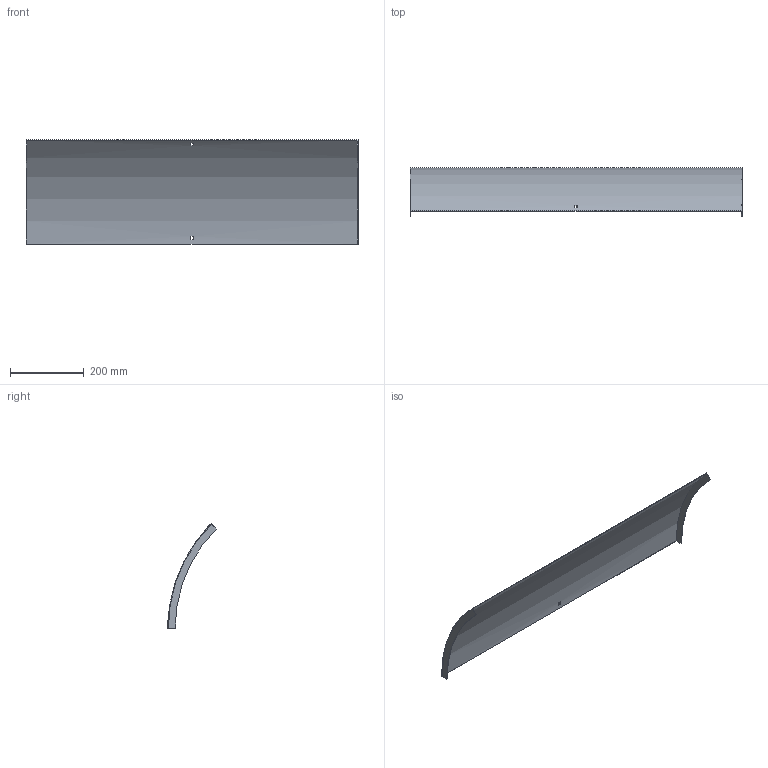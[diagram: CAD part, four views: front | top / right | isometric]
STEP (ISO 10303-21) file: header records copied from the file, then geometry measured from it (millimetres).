
FILE_DESCRIPTION (( 'STEP AP214' ), '1' );
FILE_NAME ('B2_34N3D900.step', '2025-02-21T10:36:49', ( '' ), ( '' ), 'SwSTEP 2.0', 'SolidWorks 2023', '' );
FILE_SCHEMA (( 'AUTOMOTIVE_DESIGN' ));
Length unit declared in the file: millimetre
Products named in the file (1): B2_34N3D900
Bounding box: 903 x 131.74 x 283.9 mm (x, y, z)
Volume: 443183.6 mm3; surface area: 594725.2 mm2
Topology: 1 solids, 1 shells, 18 faces, 48 edges, 32 vertices
Faces by surface type: plane 14, cylinder 4
Entity records: 599 total; most frequent: DIRECTION 102, CARTESIAN_POINT 99, ORIENTED_EDGE 96, EDGE_CURVE 48, AXIS2_PLACEMENT_3D 35, VERTEX_POINT 32, VECTOR 32, LINE 32
